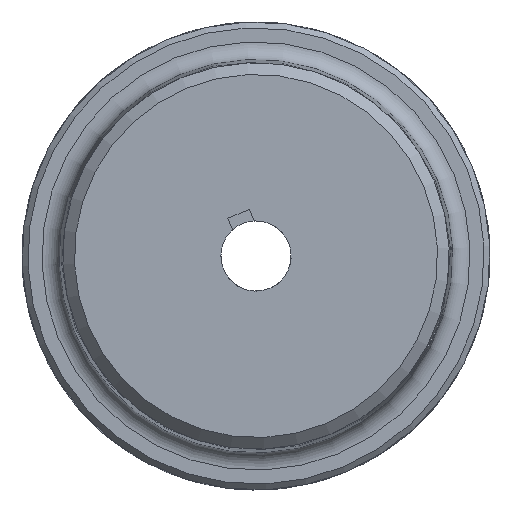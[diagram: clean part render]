
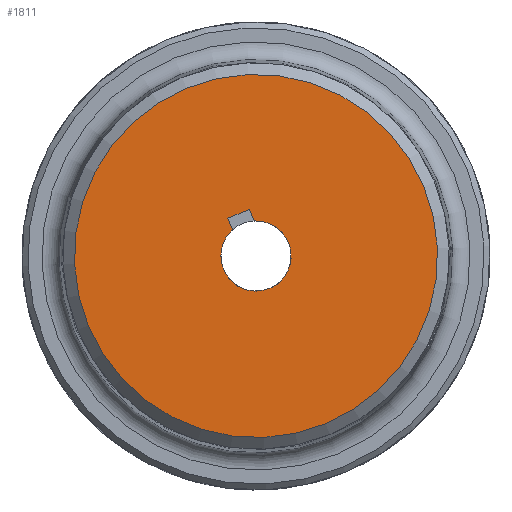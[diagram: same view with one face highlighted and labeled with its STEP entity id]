
A CAD part, left-side view. The second image highlights one B-rep face of the part: STEP entity #1811.
In plain terms, the highlighted planar face has unit normal (-1, 0, 0) as drawn and (0, 0, -1) by its records, which use the part's own axes.
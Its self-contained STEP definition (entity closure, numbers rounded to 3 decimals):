
#106=FACE_BOUND('',#551,.T.);
#266=CIRCLE('',#2047,6.);
#308=CIRCLE('',#2119,31.036);
#432=FACE_OUTER_BOUND('',#550,.T.);
#550=EDGE_LOOP('',(#1460));
#551=EDGE_LOOP('',(#1461,#1462,#1463,#1464));
#633=LINE('',#2998,#672);
#636=LINE('',#3004,#675);
#639=LINE('',#3010,#678);
#672=VECTOR('',#2386,10.);
#675=VECTOR('',#2391,10.);
#678=VECTOR('',#2396,10.);
#749=VERTEX_POINT('',#2995);
#750=VERTEX_POINT('',#2997);
#752=VERTEX_POINT('',#3003);
#754=VERTEX_POINT('',#3009);
#799=VERTEX_POINT('',#3255);
#963=EDGE_CURVE('',#750,#749,#633,.T.);
#966=EDGE_CURVE('',#752,#750,#636,.T.);
#969=EDGE_CURVE('',#754,#752,#639,.T.);
#972=EDGE_CURVE('',#749,#754,#266,.T.);
#1038=EDGE_CURVE('',#799,#799,#308,.T.);
#1460=ORIENTED_EDGE('',*,*,#1038,.F.);
#1461=ORIENTED_EDGE('',*,*,#969,.T.);
#1462=ORIENTED_EDGE('',*,*,#966,.T.);
#1463=ORIENTED_EDGE('',*,*,#963,.T.);
#1464=ORIENTED_EDGE('',*,*,#972,.T.);
#1744=PLANE('',#2120);
#1811=ADVANCED_FACE('',(#432,#106),#1744,.T.);
#2047=AXIS2_PLACEMENT_3D('',#3014,#2402,#2403);
#2119=AXIS2_PLACEMENT_3D('',#3257,#2550,#2551);
#2120=AXIS2_PLACEMENT_3D('',#3258,#2552,#2553);
#2386=DIRECTION('',(1.,0.,0.));
#2391=DIRECTION('',(0.,-1.,0.));
#2396=DIRECTION('',(-1.,0.,0.));
#2402=DIRECTION('center_axis',(0.,0.,
1.));
#2403=DIRECTION('ref_axis',(1.,0.,0.));
#2550=DIRECTION('center_axis',(0.,0.,
1.));
#2551=DIRECTION('ref_axis',(0.,-1.,0.));
#2552=DIRECTION('center_axis',(0.,0.,
-1.));
#2553=DIRECTION('ref_axis',(0.,-1.,0.));
#2995=CARTESIAN_POINT('',(-5.657,-2.,-45.));
#2997=CARTESIAN_POINT('',(-7.8,-2.,-45.));
#2998=CARTESIAN_POINT('',(-3.9,-2.,-45.));
#3003=CARTESIAN_POINT('',(-7.8,2.,-45.));
#3004=CARTESIAN_POINT('',(-7.8,1.,-45.));
#3009=CARTESIAN_POINT('',(-5.657,2.,-45.));
#3010=CARTESIAN_POINT('',(-2.828,2.,-45.));
#3014=CARTESIAN_POINT('Origin',(0.,0.,
-45.));
#3255=CARTESIAN_POINT('',(0.,31.036,-45.));
#3257=CARTESIAN_POINT('Origin',(0.,0.,
-45.));
#3258=CARTESIAN_POINT('Origin',(0.,0.,
-45.));
